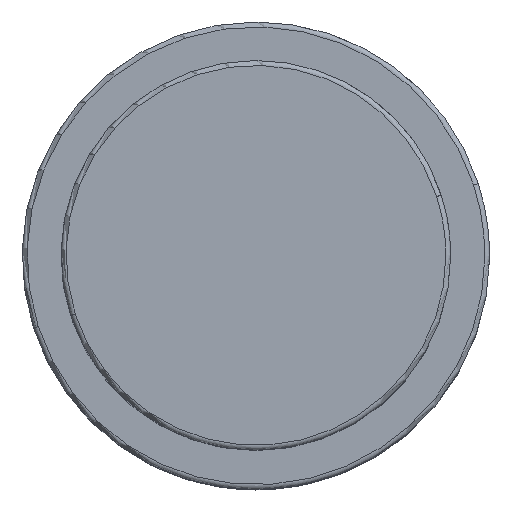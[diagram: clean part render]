
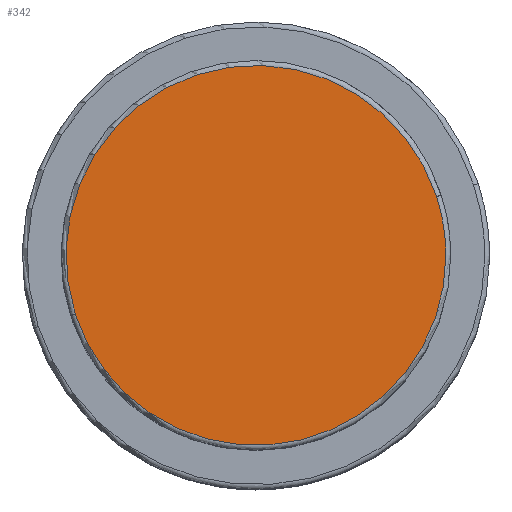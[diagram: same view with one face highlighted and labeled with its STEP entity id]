
A CAD part, top view. The second image highlights one B-rep face of the part: STEP entity #342.
In plain terms, the highlighted planar face has unit normal (0, 0, 1).
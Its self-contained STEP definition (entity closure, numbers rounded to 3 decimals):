
#275=CARTESIAN_POINT('',(18.546,6.026,38.5));
#276=VERTEX_POINT('',#275);
#294=CARTESIAN_POINT('',(-18.546,-6.026,38.5));
#295=VERTEX_POINT('',#294);
#303=CARTESIAN_POINT('',(0.0,0.0,38.5));
#304=DIRECTION('',(0.0,0.0,1.0));
#305=DIRECTION('',(1.0,0.0,0.0));
#306=AXIS2_PLACEMENT_3D('',#303,#304,#305);
#307=CIRCLE('',#306,19.5);
#308=EDGE_CURVE('no 842',#276,#295,#307,.T.);
#318=CARTESIAN_POINT('',(19.5,0.0,38.5));
#319=VERTEX_POINT('',#318);
#320=CARTESIAN_POINT('',(0.0,0.0,38.5));
#321=DIRECTION('',(0.0,0.0,1.0));
#322=DIRECTION('',(1.0,0.0,0.0));
#323=AXIS2_PLACEMENT_3D('',#320,#321,#322);
#324=CIRCLE('',#323,19.5);
#325=EDGE_CURVE('no 851',#319,#276,#324,.T.);
#326=ORIENTED_EDGE('',*,*,#325,.T.);
#327=ORIENTED_EDGE('',*,*,#308,.T.);
#328=CARTESIAN_POINT('',(0.0,0.0,38.5));
#329=DIRECTION('',(0.0,0.0,1.0));
#330=DIRECTION('',(1.0,0.0,0.0));
#331=AXIS2_PLACEMENT_3D('',#328,#329,#330);
#332=CIRCLE('',#331,19.5);
#333=EDGE_CURVE('no 857',#295,#319,#332,.T.);
#334=ORIENTED_EDGE('',*,*,#333,.T.);
#335=EDGE_LOOP('',(#326,#327,#334));
#336=FACE_OUTER_BOUND('',#335,.T.);
#337=CARTESIAN_POINT('',(0.0,0.0,38.5));
#338=DIRECTION('',(0.0,0.0,1.0));
#339=DIRECTION('',(1.0,0.0,0.0));
#340=AXIS2_PLACEMENT_3D('',#337,#338,#339);
#341=PLANE('',#340);
#342=ADVANCED_FACE('no 844',(#336),#341,.T.);
